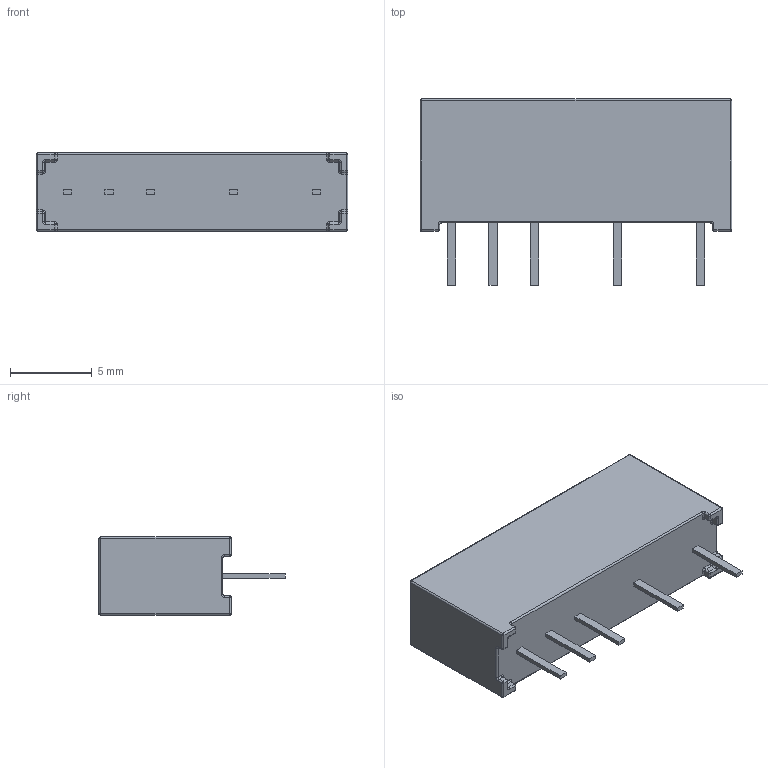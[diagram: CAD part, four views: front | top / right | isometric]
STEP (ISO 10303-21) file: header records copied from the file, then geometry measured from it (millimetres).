
FILE_DESCRIPTION (( 'STEP AP214' ), '1' );
FILE_NAME ('106-1-C.STEP', '2010-11-26T10:03:25', ( ' ' ), ( '' ), 'SwSTEP 2.0', 'SolidWorks 2009', '' );
FILE_SCHEMA (( 'AUTOMOTIVE_DESIGN' ));
Length unit declared in the file: millimetre
Products named in the file (1): 106-1-C
Bounding box: 19.1 x 11.4 x 4.8 mm (x, y, z)
Volume: 700.1 mm3; surface area: 578.4 mm2
Topology: 1 solids, 1 shells, 795 faces, 2087 edges, 1320 vertices
Faces by surface type: plane 441, bspline 234, cylinder 72, sphere 28, torus 20
Entity records: 52802 total; most frequent: CARTESIAN_POINT 26167, ORIENTED_EDGE 4118, DIRECTION 2867, EDGE_CURVE 2059, VECTOR 1415, LINE 1415, VERTEX_POINT 1320, EDGE_LOOP 849
